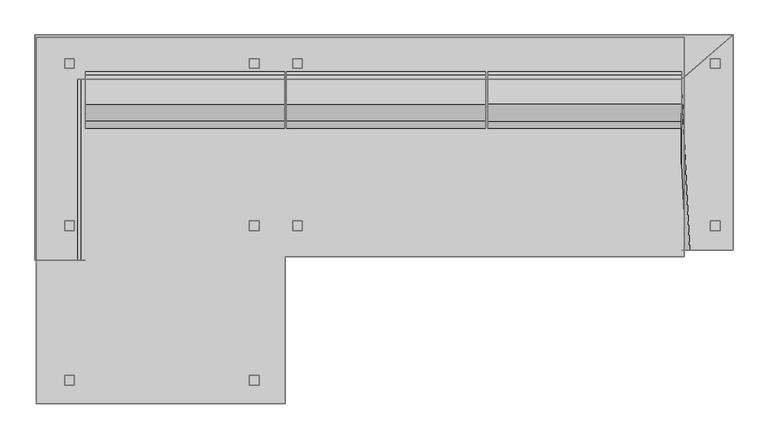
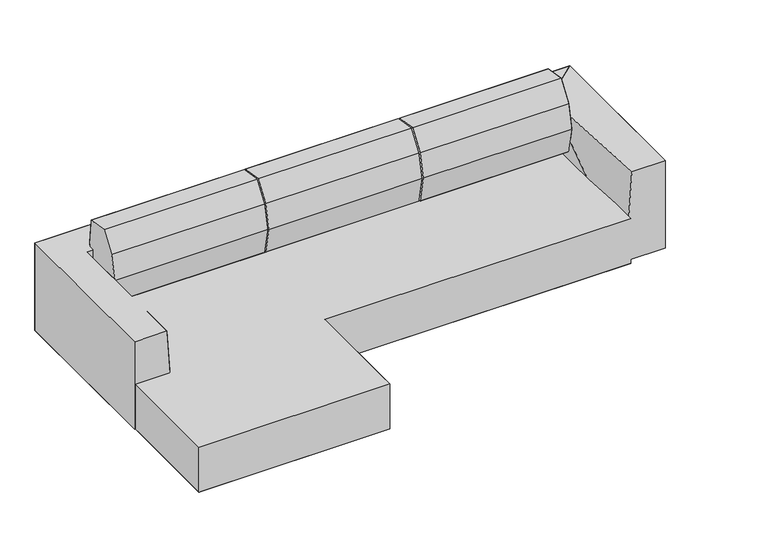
"""IFC4 building model written with IfcOpenShell, lengths in millimetres: geographic element geometry, Enscape AssetDefinition - Cello Loveseat with Chaise : Enscape AssetDefinition - Cello Loveseat with Chaise."""

from ifc_helpers import new_model, si_unit, origin, place, context, project, spatial, triangles, source, transform, mapped, element, save


def geographic_element_70561a7e(model_context):
    return source(origin(), model_context, "Body", "Tessellation", [
        triangles([(-410.5939785, -48.5240004, 32.9420004), (-410.5939785, -4.3680002, 0.0), (-410.5939785, -48.5240004, 0.0), (-366.4379891, -48.5240004, 0.0), (-366.4379891, -4.3680002, 0.0), (-410.5939785, -4.3680002, 32.9420004), (-366.4379891, -48.5240004, 32.9420004), (-366.4379891, -4.3680002, 32.9420004), (1450.6139271, -4.3680002, 32.9420004), (1450.6139271, -48.5240004, 32.9420004), (1450.6139271, -48.5240004, 0.0), (1450.6139271, -4.3680002, 0.0), (1494.7689354, -48.5240004, 32.9420004), (1494.7689354, -48.5240004, 0.0), (1494.7689354, -4.3680002, 32.9420004), (1494.7689354, -4.3680002, 0.0), (-603.6419698, -4.3680002, 0.0), (-603.6419698, -48.5240004, 0.0), (-603.6419698, -48.5240004, 32.9420004), (-559.4869978, -48.5240004, 32.9420004), (-559.4869978, -4.3680002, 0.0), (-603.6419698, -4.3680002, 32.9420004), (-559.4869978, -4.3680002, 32.9420004), (-559.4869978, -48.5240004, 0.0), (-1427.0009789, -48.5240004, 32.9420004), (-1427.0009789, -4.3680002, 32.9420004), (-1382.8450985, -4.3680002, 0.0), (-1427.0009789, -4.3680002, 0.0), (-1382.8450985, -48.5240004, 0.0), (-1427.0009789, -48.5240004, 0.0), (-1382.8450985, -48.5240004, 32.9420004), (-1382.8450985, -4.3680002, 32.9420004), (-410.5939785, 674.7870094, 32.9420004), (-410.5939785, 718.9420177, 32.9420004), (-410.5939785, 718.9420177, 0.0), (-410.5939785, 674.7870094, 0.0), (-366.4379891, 718.9420177, 32.9420004), (-366.4379891, 674.7870094, 32.9420004), (-366.4379891, 718.9420177, 0.0), (-366.4379891, 674.7870094, 0.0), (1450.6139271, 674.7870094, 32.9420004), (1494.7689354, 718.9420177, 0.0), (1450.6139271, 718.9420177, 0.0), (1450.6139271, 674.7870094, 0.0), (1494.7689354, 674.7870094, 0.0), (1450.6139271, 718.9420177, 32.9420004), (1494.7689354, 718.9420177, 32.9420004), (1494.7689354, 674.7870094, 32.9420004), (-603.6419698, 718.9420177, 32.9420004), (-603.6419698, 674.7870094, 32.9420004), (-603.6419698, 718.9420177, 0.0), (-603.6419698, 674.7870094, 0.0), (-559.4869978, 718.9420177, 0.0), (-559.4869978, 718.9420177, 32.9420004), (-559.4869978, 674.7870094, 32.9420004), (-559.4869978, 674.7870094, 0.0), (-1427.0009789, 674.7870094, 32.9420004), (-1382.8450985, 674.7870094, 32.9420004), (-1427.0009789, 718.9420177, 0.0), (-1427.0009789, 674.7870094, 0.0), (-1427.0009789, 718.9420177, 32.9420004), (-1382.8450985, 718.9420177, 32.9420004), (-1382.8450985, 674.7870094, 0.0), (-1382.8450985, 718.9420177, 0.0), (-603.6419698, -737.7700109, 32.9420004), (-603.6419698, -693.6139853, 0.0), (-603.6419698, -737.7700109, 0.0), (-559.4869978, -737.7700109, 32.9420004), (-603.6419698, -693.6139853, 32.9420004), (-559.4869978, -693.6139853, 32.9420004), (-559.4869978, -737.7700109, 0.0), (-559.4869978, -693.6139853, 0.0), (-1427.0009789, -693.6139853, 0.0), (-1427.0009789, -693.6139853, 32.9420004), (-1427.0009789, -737.7700109, 32.9420004), (-1382.8450985, -737.7700109, 32.9420004), (-1427.0009789, -737.7700109, 0.0), (-1382.8450985, -737.7700109, 0.0), (-1382.8450985, -693.6139853, 32.9420004), (-1382.8450985, -693.6139853, 0.0), (-1553.524942, 812.941004, 32.9420004), (1336.3110203, 812.941004, 32.9420004), (-443.3160001, -165.2789922, 309.8999794), (1336.3110203, -165.2789922, 309.8999794), (-443.3160001, -165.2789922, 32.9420004), (-1553.524942, -819.0420124, 309.8999794), (-1553.524942, 812.941004, 309.8999794), (1336.3110203, -165.2789922, 32.9420004), (1336.3110203, 812.941004, 309.8999794), (-443.3160001, -819.0420124, 309.8999794), (-1553.524942, -819.0420124, 32.9420004), (-443.3160001, -819.0420124, 32.9420004), (-1371.3651306, 625.7029415, 572.0720218), (-1559.1260536, 824.3070253, 572.0720218), (-1559.1260536, -179.8840055, 32.9420004), (-1559.1260536, -179.8840055, 572.0720218), (-1371.3651306, -179.8840055, 572.0720218), (-1335.1889957, -179.8840055, 32.9420004), (-1335.1889957, 625.7029415, 32.9420004), (1322.2019978, 625.7029415, 32.9420004), (-1559.1260536, 824.3070253, 32.9420004), (1322.2019978, 625.7029415, 572.0720218), (1552.9539013, 824.3070253, 32.9420004), (1552.9539013, -135.5529996, 572.0720218), (1552.9539013, 824.3070253, 572.0720218), (1359.3619389, -135.5529996, 572.0720218), (1552.9539013, -135.5529996, 32.9420004), (1323.5030811, 625.7029415, 32.9420004), (1323.5030811, -135.5529996, 32.9420004), (1323.5030811, 407.5140066, 516.05898), (459.1419963, 439.6379906, 357.7489846), (1323.5030811, 632.1920076, 454.3930129), (1323.5030811, 575.2740066, 340.9000131), (1323.5030811, 439.6379906, 357.7489846), (459.1419963, 632.1920076, 454.3930129), (459.1419963, 575.2740066, 340.9000131), (459.1419963, 407.5140066, 516.05898), (459.1419963, 439.3930201, 654.7480436), (459.1419963, 660.2420397, 594.2389827), (459.1419963, 644.2530447, 743.023978), (1323.5030811, 644.2530447, 743.023978), (1323.5030811, 515.4860135, 762.9290131), (459.1419963, 515.4860135, 762.9290131), (1323.5030811, 660.2420397, 594.2389827), (1323.5030811, 439.3930201, 654.7480436), (451.4070033, 439.3930201, 654.7480436), (451.4070033, 515.4860135, 762.9290131), (451.4070033, 407.5140066, 516.05898), (-438.6670106, 439.6379906, 357.7489846), (451.4070033, 660.2420397, 594.2389827), (-438.6670106, 407.5140066, 516.05898), (-438.6670106, 575.2740066, 340.9000131), (-438.6670106, 632.1920076, 454.3930129), (451.4070033, 439.6379906, 357.7489846), (451.4070033, 575.2740066, 340.9000131), (451.4070033, 632.1920076, 454.3930129), (-438.6670106, 660.2420397, 594.2389827), (-438.6670106, 439.3930201, 654.7480436), (-438.6670106, 515.4860135, 762.9290131), (-438.6670106, 644.2530447, 743.023978), (451.4070033, 644.2530447, 743.023978), (-445.3049775, 515.4860135, 762.9290131), (-445.3049775, 439.3930201, 654.7480436), (-445.3049775, 644.2530447, 743.023978), (-445.3049775, 660.2420397, 594.2389827), (-1335.3799725, 644.2530447, 743.023978), (-445.3049775, 439.6379906, 357.7489846), (-445.3049775, 632.1920076, 454.3930129), (-1335.3799725, 407.5140066, 516.05898), (-445.3049775, 407.5140066, 516.05898), (-1335.3799725, 439.6379906, 357.7489846), (-1335.3799725, 575.2740066, 340.9000131), (-445.3049775, 575.2740066, 340.9000131), (-1335.3799725, 632.1920076, 454.3930129), (-1335.3799725, 660.2420397, 594.2389827), (-1335.3799725, 439.3930201, 654.7480436), (-1335.3799725, 515.4860135, 762.9290131)], [[146, 144, 145], [157, 146, 155], [157, 155, 156], [146, 145, 155], [155, 149, 156], [155, 154, 149], [145, 154, 155], [154, 153, 152], [145, 148, 154], [154, 148, 153], [148, 147, 153], [153, 147, 151], [151, 149, 154], [153, 151, 152], [151, 154, 152], [156, 149, 150], [148, 150, 147], [150, 149, 151], [145, 150, 148], [150, 151, 147], [145, 143, 150], [156, 150, 143], [145, 144, 142], [146, 157, 142], [142, 157, 156], [145, 142, 143], [146, 142, 144], [142, 156, 143], [140, 141, 130], [139, 140, 137], [139, 137, 138], [140, 130, 137], [137, 131, 138], [137, 133, 131], [130, 133, 137], [133, 135, 132], [130, 136, 133], [133, 136, 135], [136, 134, 135], [135, 134, 129], [129, 131, 133], [135, 129, 132], [129, 133, 132], [138, 131, 128], [136, 128, 134], [128, 131, 129], [130, 128, 136], [128, 129, 134], [130, 126, 128], [138, 128, 126], [130, 141, 127], [140, 139, 127], [127, 139, 138], [130, 127, 126], [140, 127, 141], [127, 138, 126], [124, 121, 122], [122, 118, 125], [124, 122, 125], [122, 123, 118], [120, 121, 124], [120, 123, 122], [120, 122, 121], [123, 120, 119], [123, 119, 118], [120, 124, 119], [119, 117, 118], [119, 115, 117], [111, 117, 115], [124, 115, 119], [111, 115, 116], [115, 113, 116], [113, 111, 116], [124, 112, 115], [115, 112, 113], [113, 114, 111], [112, 114, 113], [124, 125, 110], [118, 117, 110], [112, 110, 114], [110, 117, 111], [124, 110, 112], [118, 110, 125], [110, 111, 114], [102, 109, 106], [102, 108, 109], [106, 109, 107], [108, 107, 109], [102, 106, 104], [106, 107, 104], [105, 108, 102], [102, 104, 105], [100, 105, 102], [100, 103, 105], [105, 103, 108], [104, 107, 103], [108, 103, 107], [104, 103, 105], [103, 94, 105], [94, 102, 105], [103, 101, 94], [100, 101, 103], [99, 100, 102], [100, 99, 101], [99, 95, 101], [99, 98, 95], [95, 98, 97], [101, 95, 96], [95, 97, 96], [101, 96, 94], [98, 99, 93], [94, 93, 102], [93, 94, 96], [99, 102, 93], [98, 93, 97], [93, 96, 97], [90, 86, 91], [90, 91, 92], [83, 90, 92], [86, 90, 83], [86, 83, 87], [83, 89, 87], [83, 84, 89], [89, 84, 88], [87, 89, 82], [89, 88, 82], [86, 87, 81], [86, 81, 91], [87, 82, 81], [84, 83, 85], [82, 88, 85], [85, 92, 91], [83, 92, 85], [84, 85, 88], [82, 85, 81], [85, 91, 81], [79, 78, 80], [74, 79, 80], [79, 76, 78], [74, 76, 79], [80, 78, 77], [76, 77, 78], [80, 77, 73], [74, 80, 73], [74, 75, 76], [76, 75, 77], [75, 74, 73], [75, 73, 77], [70, 71, 72], [69, 70, 72], [70, 68, 71], [69, 68, 70], [72, 71, 67], [68, 67, 71], [72, 67, 66], [69, 72, 66], [69, 65, 68], [68, 65, 67], [65, 69, 66], [65, 66, 67], [62, 63, 64], [61, 62, 64], [62, 58, 63], [61, 58, 62], [64, 63, 60], [58, 60, 63], [64, 60, 59], [61, 64, 59], [61, 57, 58], [58, 57, 60], [57, 61, 59], [57, 59, 60], [54, 56, 53], [49, 54, 53], [54, 55, 56], [49, 55, 54], [53, 56, 52], [55, 52, 56], [53, 52, 51], [49, 53, 51], [49, 50, 55], [55, 50, 52], [50, 49, 51], [50, 51, 52], [47, 45, 42], [46, 47, 42], [47, 48, 45], [46, 48, 47], [42, 45, 44], [48, 44, 45], [42, 44, 43], [46, 42, 43], [46, 41, 48], [48, 41, 44], [41, 46, 43], [41, 43, 44], [37, 40, 39], [34, 37, 39], [37, 38, 40], [34, 38, 37], [39, 40, 36], [38, 36, 40], [39, 36, 35], [34, 39, 35], [34, 33, 38], [38, 33, 36], [33, 34, 35], [33, 35, 36], [32, 29, 27], [26, 32, 27], [32, 31, 29], [26, 31, 32], [27, 29, 30], [31, 30, 29], [27, 30, 28], [26, 27, 28], [26, 25, 31], [31, 25, 30], [25, 26, 28], [25, 28, 30], [23, 24, 21], [22, 23, 21], [23, 20, 24], [22, 20, 23], [21, 24, 18], [20, 18, 24], [21, 18, 17], [22, 21, 17], [22, 19, 20], [20, 19, 18], [19, 22, 17], [19, 17, 18], [15, 14, 16], [9, 15, 16], [15, 13, 14], [9, 13, 15], [16, 14, 11], [13, 11, 14], [16, 11, 12], [9, 16, 12], [9, 10, 13], [13, 10, 11], [10, 9, 12], [10, 12, 11], [8, 4, 5], [6, 8, 5], [8, 7, 4], [6, 7, 8], [5, 4, 3], [7, 3, 4], [5, 3, 2], [6, 5, 2], [6, 1, 7], [7, 1, 3], [1, 6, 2], [1, 2, 3]], closed=False),
    ])


if __name__ == "__main__":
    model = new_model("IFC4")
    model_context = context("Model", 3, world=origin())
    ifc_project = project(units=[si_unit("LENGTHUNIT", "METRE", prefix="MILLI")], contexts=[model_context])
    site = spatial("IfcSite", under=ifc_project)
    building = spatial("IfcBuilding", under=site)
    placement = place(None, origin())
    geographic_element_shape = geographic_element_70561a7e(model_context)
    element("IfcGeographicElement", 1, ObjectType="Enscape AssetDefinition - Cello Loveseat with Chaise : Enscape AssetDefinition - Cello Loveseat with Chaise", at=placement, inside=building, context=model_context, shape_type="MappedRepresentation", body=[
        mapped(geographic_element_shape, transform((0.0, 0.0, 0.0), x_axis=(1.0, 0.0, 0.0), y_axis=(0.0, 1.0, 0.0), z_axis=(0.0, 0.0, 1.0))),
    ])
    save(model, "model.ifc")
